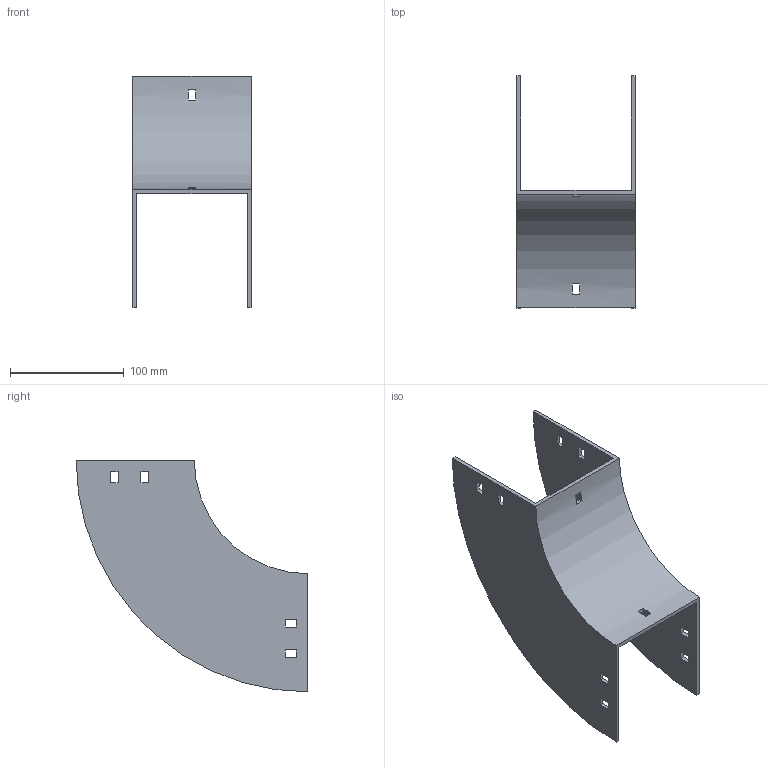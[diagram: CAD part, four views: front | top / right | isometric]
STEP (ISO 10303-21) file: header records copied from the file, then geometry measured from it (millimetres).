
FILE_DESCRIPTION (( 'STEP AP214' ), '1' );
FILE_NAME ('33B1D100.step', '2025-02-21T09:30:26', ( '' ), ( '' ), 'SwSTEP 2.0', 'SolidWorks 2023', '' );
FILE_SCHEMA (( 'AUTOMOTIVE_DESIGN' ));
Length unit declared in the file: millimetre
Products named in the file (1): 33B1D100
Bounding box: 104 x 204 x 204 mm (x, y, z)
Volume: 225704.7 mm3; surface area: 134505 mm2
Topology: 1 solids, 1 shells, 50 faces, 144 edges, 96 vertices
Faces by surface type: plane 46, cylinder 4
Entity records: 1687 total; most frequent: CARTESIAN_POINT 291, ORIENTED_EDGE 288, DIRECTION 262, EDGE_CURVE 144, LINE 128, VECTOR 128, VERTEX_POINT 96, EDGE_LOOP 70
